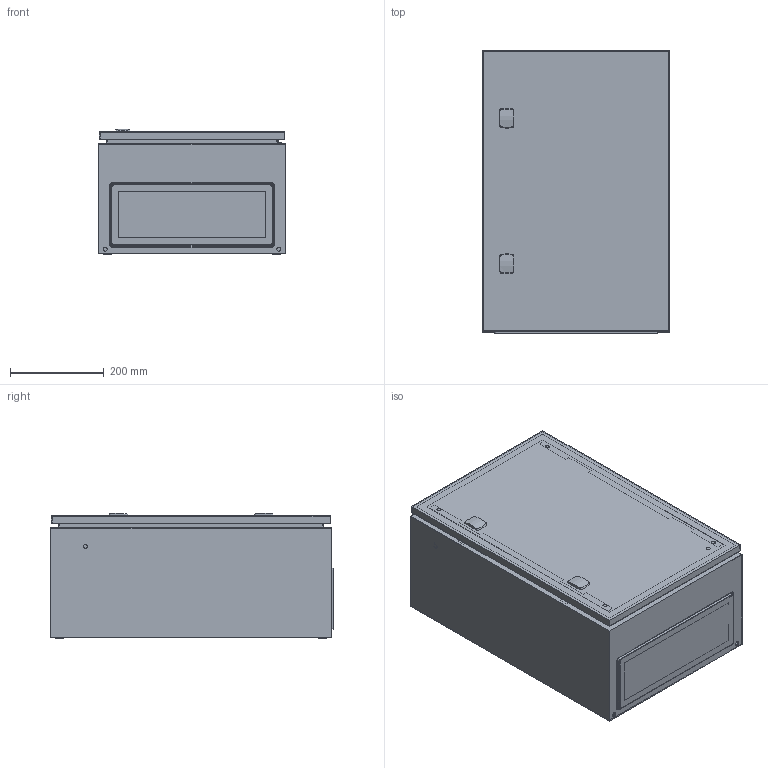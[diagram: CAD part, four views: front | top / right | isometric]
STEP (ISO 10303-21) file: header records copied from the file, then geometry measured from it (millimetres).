
FILE_DESCRIPTION( ( 'STEP AP214' ), '1' );
FILE_NAME( 'p:/temp/worker_142/temp/exporttempdir_4344_60_x2wQJ/format_0/MAS0604026R5(0).stp', '2021-03-15T19:45:13', ( 'License CC BY-ND 4.0' ), ( 'CADENAS' ), ' ', 'PARTsolutions', ' ' );
FILE_SCHEMA( ( 'AUTOMOTIVE_DESIGN { 1 0 10303 214 1 1 1 1 }' ) );
Length unit declared in the file: millimetre
Products named in the file (8): MAS0604026R5(0); _MAS0604026(0); _MMSH06SS(0)_right; _ADP06040R5(0); _ALL503(0,0); _AMP06040_MPL(0); _AF02R5_GP(0); _AG02_GPG(0)
Assembly tree (9 placements, depth 2):
  MAS0604026R5(0)
    _MAS0604026(0)
    _MMSH06SS(0)_right  x2
    _ADP06040R5(0)
    _ALL503(0,0)  x2
    _AMP06040_MPL(0)
    _AF02R5_GP(0)
    _AG02_GPG(0)
Bounding box: 400 x 603.9 x 267.67 mm (x, y, z)
Volume: 2264411.2 mm3; surface area: 2665292.1 mm2
Topology: 9 solids, 9 shells, 525 faces, 1284 edges, 837 vertices
Faces by surface type: plane 350, cylinder 114, cone 57, torus 4
Full cylindrical faces by diameter (mm): 4.9 x2, 6 x4, 6.5 x2, 7 x4, 8 x7, 8.5 x4, 8.7 x2, 9 x2, 14 x7, 18 x2, 27 x2
Entity records: 15973 total; most frequent: CARTESIAN_POINT 2273, DIRECTION 2083, ORIENTED_EDGE 1940, EDGE_CURVE 970, AXIS2_PLACEMENT_3D 706, VERTEX_POINT 680, LINE 671, VECTOR 671
